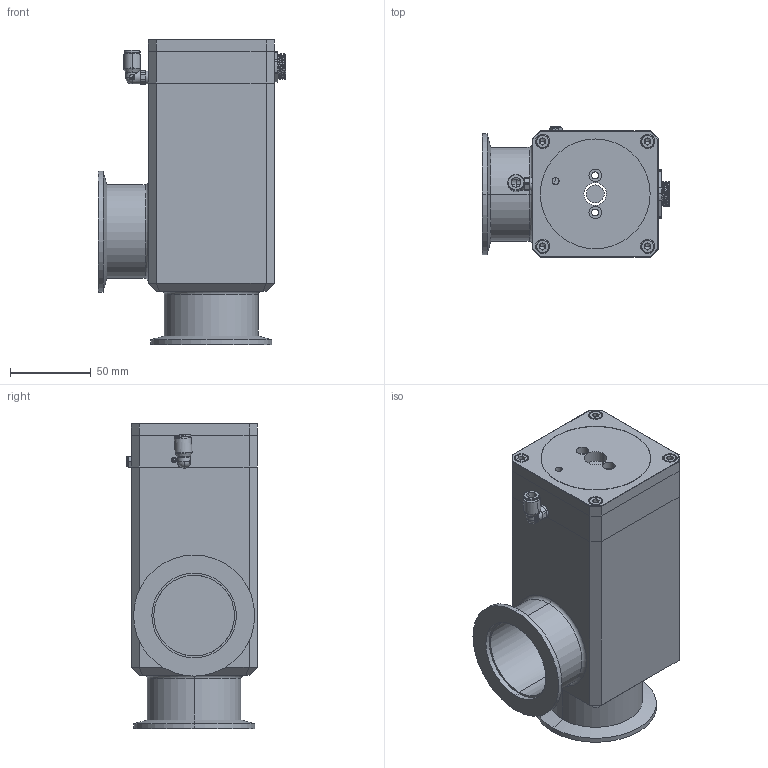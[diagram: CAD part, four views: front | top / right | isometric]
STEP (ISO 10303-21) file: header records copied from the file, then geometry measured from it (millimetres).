
FILE_DESCRIPTION (( 'STEP AP203' ), '1' );
FILE_NAME ('KF50褒概.STEP', '2021-09-21T14:42:12', ( '' ), ( '' ), 'SwSTEP 2.0', 'SolidWorks 2016', '' );
FILE_SCHEMA (( 'CONFIG_CONTROL_DESIGN' ));
Length unit declared in the file: millimetre
Products named in the file (1): KF50褒概
Bounding box: 116.2 x 80.65 x 189 mm (x, y, z)
Surface area: 89287.5 mm2 (no closed solid volume)
Topology: 0 solids, 25 shells, 311 faces, 870 edges, 564 vertices
Faces by surface type: cylinder 116, plane 109, cone 41, torus 38, bspline 5, sphere 2
Entity records: 11767 total; most frequent: CARTESIAN_POINT 3802, DIRECTION 1770, ORIENTED_EDGE 1420, EDGE_CURVE 853, AXIS2_PLACEMENT_3D 691, VERTEX_POINT 564, LINE 388, VECTOR 388
